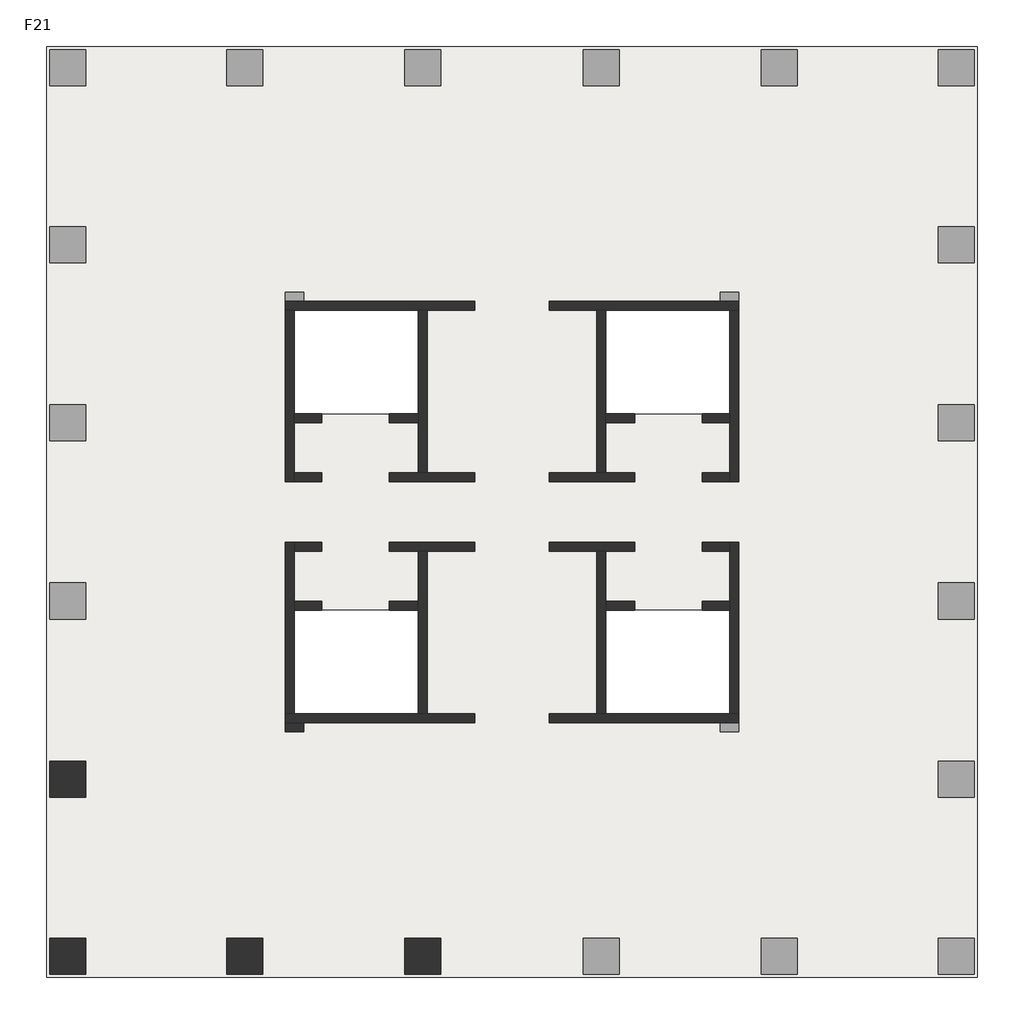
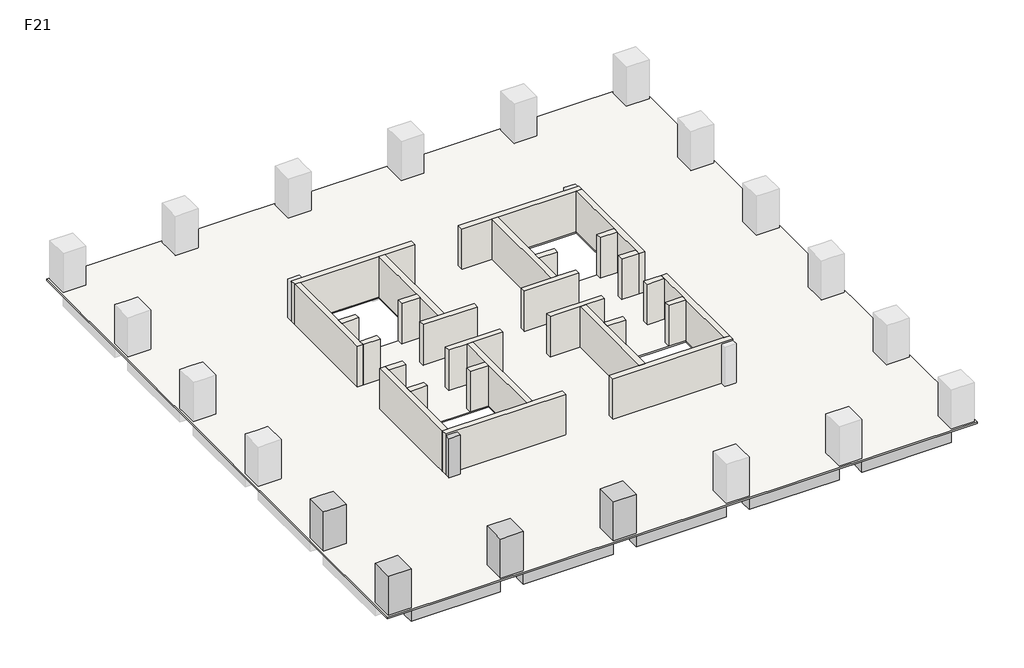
# One storey, part 1 of 2: 28 walls, 5 columns, 3 beams, 1 slab.
"""IFC4 building model written with IfcOpenShell, lengths in millimetres."""

from ifc_helpers import new_model, si_unit, frame, origin, place, context, project, spatial, polyline, outline, extrude, faceted_brep, element, save

model = new_model("IFC4")

# Units and contexts
model_context = context("Model", 3, world=origin())
ifc_project = project(units=[si_unit("LENGTHUNIT", "METRE", prefix="MILLI")], contexts=[model_context])

# Site, building, storey
site = spatial("IfcSite", under=ifc_project)
building = spatial("IfcBuilding", under=site)
storey = spatial("IfcBuildingStorey", under=building, Name="F21", Elevation=81000.0)

# Beams
placement = place(None, origin())
element("IfcBeam", 1, ObjectType="混凝土 - 矩形梁 : KL(5)-800x1000", at=placement, inside=storey, context=model_context, shape_type="SweptSolid", body=[
    extrude(outline(polyline([(-12472.6742169, -13948.9501342), (-12472.6742169, -13148.9501342), (-6222.6742169, -13148.9501342), (-6222.6742169, -13948.9501342), (-12472.6742169, -13948.9501342)])), frame((0.0, 0.0, 80000.0), z_axis=(0.0, 0.0, 1.0), x_axis=(1.0, 0.0, 0.0)), (0.0, 0.0, 1.0), 900.0),
    extrude(outline(polyline([(25327.3257831, -13148.9501342), (25327.3257831, -13948.9501342), (19077.3257831, -13948.9501342), (19077.3257831, -13148.9501342), (25327.3257831, -13148.9501342)])), frame((0.0, 0.0, 80000.0), z_axis=(0.0, 0.0, 1.0), x_axis=(1.0, 0.0, 0.0)), (0.0, 0.0, 1.0), 900.0),
    extrude(outline(polyline([(-4622.6742169, -13948.9501342), (-4622.6742169, -13148.9501342), (1677.3257831, -13148.9501342), (1677.3257831, -13948.9501342), (-4622.6742169, -13948.9501342)])), frame((0.0, 0.0, 80000.0), z_axis=(0.0, 0.0, 1.0), x_axis=(1.0, 0.0, 0.0)), (0.0, 0.0, 1.0), 900.0),
    extrude(outline(polyline([(3277.3257831, -13948.9501342), (3277.3257831, -13148.9501342), (9577.3257831, -13148.9501342), (9577.3257831, -13948.9501342), (3277.3257831, -13948.9501342)])), frame((0.0, 0.0, 80000.0), z_axis=(0.0, 0.0, 1.0), x_axis=(1.0, 0.0, 0.0)), (0.0, 0.0, 1.0), 900.0),
    extrude(outline(polyline([(11177.3257831, -13948.9501342), (11177.3257831, -13148.9501342), (17477.3257831, -13148.9501342), (17477.3257831, -13948.9501342), (11177.3257831, -13948.9501342)])), frame((0.0, 0.0, 80000.0), z_axis=(0.0, 0.0, 1.0), x_axis=(1.0, 0.0, 0.0)), (0.0, 0.0, 1.0), 900.0),
])
element("IfcBeam", 2, ObjectType="混凝土 - 矩形梁 : L1-800x500", at=placement, inside=storey, context=model_context, shape_type="Brep", body=[
    faceted_brep([(-12472.6742169, -5512.1353397, 80500.0), (-3746.9473979, -3341.556529, 80500.0), (-3173.6696907, -3198.9501342, 80500.0), (-3173.6696907, -3198.9501342, 80900.0), (-3746.9473979, -3341.556529, 80900.0), (-12472.6742169, -5512.1353397, 80900.0), (-3622.6742169, -3198.9501342, 80500.0), (-12472.6742169, -4687.7549784, 80500.0), (-3622.6742169, -2486.2624411, 80500.0), (-3622.6742169, -2798.9501342, 80500.0), (-12472.6742169, -4687.7549784, 80900.0), (-3622.6742169, -2486.2624411, 80900.0), (-3622.6742169, -3198.9501342, 80900.0)], [[[0, 1, 2, 3, 4, 5]], [[6, 2, 1, 0, 7, 8, 9]], [[8, 7, 10, 11]], [[2, 6, 12, 3]], [[9, 8, 11, 12, 6]], [[7, 0, 5, 10]], [[5, 4, 3, 12, 11, 10]]]),
])
element("IfcBeam", 3, ObjectType="混凝土 - 矩形梁 : L1-800x500", at=placement, inside=storey, context=model_context, shape_type="SweptSolid", body=[
    extrude(outline(polyline([(-3746.9473979, -3341.556529), (-3173.6696907, -3198.9501342), (-2898.7618154, -3198.9501342), (-4843.6893517, -12348.9501342), (-5661.5624638, -12348.9501342), (-3746.9473979, -3341.556529)])), frame((0.0, 0.0, 80500.0), z_axis=(0.0, 0.0, 1.0), x_axis=(1.0, 0.0, 0.0)), (0.0, 0.0, 1.0), 400.0),
])

# Columns
element("IfcColumn", 4, ObjectType="混凝土 - 矩形 - 柱 : Z1-1600x1600", at=placement, inside=storey, context=model_context, shape_type="Brep", body=[
    faceted_brep([(-12472.6742169, -4498.9501342, 81000.0), (-12472.6742169, -6098.9501342, 81000.0), (-14072.6742169, -6098.9501342, 81000.0), (-14072.6742169, -4498.9501342, 81000.0), (-12472.6742169, -4498.9501342, 83900.0), (-12472.6742169, -6098.9501342, 83900.0), (-13272.6742169, -6098.9501342, 83900.0), (-14072.6742169, -6098.9501342, 83900.0), (-14072.6742169, -6098.9501342, 83000.0), (-14072.6742169, -4498.9501342, 83900.0), (-14072.6742169, -4498.9501342, 83000.0), (-13272.6742169, -4498.9501342, 83900.0)], [[[0, 1, 2, 3]], [[1, 0, 4, 5]], [[2, 1, 5, 6, 7, 8]], [[3, 2, 8, 7, 9, 10]], [[0, 3, 10, 9, 11, 4]], [[5, 4, 11, 9, 7, 6]]]),
])
element("IfcColumn", 5, ObjectType="混凝土 - 矩形 - 柱 : Z1-1600x1600", at=placement, inside=storey, context=model_context, shape_type="SweptSolid", body=[
    extrude(outline(polyline([(-12472.6742169, -12348.9501342), (-12472.6742169, -13948.9501342), (-14072.6742169, -13948.9501342), (-14072.6742169, -12348.9501342), (-12472.6742169, -12348.9501342)])), frame((0.0, 0.0, 81000.0), z_axis=(0.0, 0.0, 1.0), x_axis=(1.0, 0.0, 0.0)), (0.0, 0.0, 1.0), 2900.0),
])
element("IfcColumn", 6, ObjectType="混凝土 - 矩形 - 柱 : Z1-1600x1600", at=placement, inside=storey, context=model_context, shape_type="Brep", body=[
    faceted_brep([(-4622.6742169, -12348.9501342, 81000.0), (-4622.6742169, -13948.9501342, 81000.0), (-6222.6742169, -13948.9501342, 81000.0), (-6222.6742169, -12348.9501342, 81000.0), (-4622.6742169, -12348.9501342, 83900.0), (-4622.6742169, -13148.9501342, 83900.0), (-4622.6742169, -13948.9501342, 83900.0), (-4622.6742169, -13948.9501342, 83000.0), (-6222.6742169, -13948.9501342, 83900.0), (-6222.6742169, -13948.9501342, 83000.0), (-6222.6742169, -13148.9501342, 83900.0), (-6222.6742169, -12348.9501342, 83900.0)], [[[0, 1, 2, 3]], [[1, 0, 4, 5, 6, 7]], [[2, 1, 7, 6, 8, 9]], [[3, 2, 9, 8, 10, 11]], [[0, 3, 11, 4]], [[6, 5, 4, 11, 10, 8]]]),
])
element("IfcColumn", 7, ObjectType="混凝土 - 矩形 - 柱 : Z1-1600x1600", at=placement, inside=storey, context=model_context, shape_type="Brep", body=[
    faceted_brep([(3277.3257831, -12348.9501342, 81000.0), (3277.3257831, -13948.9501342, 81000.0), (1677.3257831, -13948.9501342, 81000.0), (1677.3257831, -12348.9501342, 81000.0), (3277.3257831, -12348.9501342, 83900.0), (3277.3257831, -13148.9501342, 83900.0), (3277.3257831, -13948.9501342, 83900.0), (3277.3257831, -13948.9501342, 83000.0), (1677.3257831, -13948.9501342, 83900.0), (1677.3257831, -13948.9501342, 83000.0), (1677.3257831, -13148.9501342, 83900.0), (1677.3257831, -12348.9501342, 83900.0)], [[[0, 1, 2, 3]], [[1, 0, 4, 5, 6, 7]], [[2, 1, 7, 6, 8, 9]], [[3, 2, 9, 8, 10, 11]], [[0, 3, 11, 4]], [[6, 5, 4, 11, 10, 8]]]),
])
element("IfcColumn", 8, ObjectType="混凝土 - 矩形 - 柱 : Z2-800x800", at=placement, inside=storey, context=model_context, shape_type="SweptSolid", body=[
    extrude(outline(polyline([(-2822.6742169, -3198.9501342), (-3622.6742169, -3198.9501342), (-3622.6742169, -2798.9501342), (-2822.6742169, -2798.9501342), (-2822.6742169, -3198.9501342)])), frame((0.0, 0.0, 81000.0), z_axis=(0.0, 0.0, 1.0), x_axis=(1.0, 0.0, 0.0)), (0.0, 0.0, 1.0), 2900.0),
])

# Slab
element("IfcSlab", 9, ObjectType="LB-100", at=placement, inside=storey, context=model_context, shape_type="SweptSolid", body=[
    extrude(outline(polyline([(27077.3257831, 27201.0498658), (27077.3257831, -14085.2672073), (-14222.6742169, -14085.2672073), (-14222.6742169, 27201.0498658), (27077.3257831, 27201.0498658)]), holes=[polyline([(2277.3257831, 15501.0498658), (-3222.6742169, 15501.0498658), (-3222.6742169, 10901.0498658), (2277.3257831, 10901.0498658), (2277.3257831, 15501.0498658)]), polyline([(2277.3257831, 2201.0498658), (-3222.6742169, 2201.0498658), (-3222.6742169, -2398.9501342), (2277.3257831, -2398.9501342), (2277.3257831, 2201.0498658)]), polyline([(16077.3257831, 2201.0498658), (10577.3257831, 2201.0498658), (10577.3257831, -2398.9501342), (16077.3257831, -2398.9501342), (16077.3257831, 2201.0498658)]), polyline([(16077.3257831, 15501.0498658), (10577.3257831, 15501.0498658), (10577.3257831, 10901.0498658), (16077.3257831, 10901.0498658), (16077.3257831, 15501.0498658)])]), frame((0.0, 0.0, 80900.0), z_axis=(0.0, 0.0, 1.0), x_axis=(1.0, 0.0, 0.0)), (0.0, 0.0, 1.0), 100.0),
])

# Walls
element("IfcWall", 10, ObjectType="剪力墙-400", at=placement, inside=storey, context=model_context, shape_type="Brep", body=[
    faceted_brep([(-3622.6742169, 15501.0498658, 81000.0), (-3222.6742169, 15501.0498658, 81000.0), (2277.3257831, 15501.0498658, 81000.0), (2677.3257831, 15501.0498658, 81000.0), (4777.3257831, 15501.0498658, 81000.0), (4777.3257831, 15501.0498658, 84000.0), (2677.3257831, 15501.0498658, 84000.0), (2277.3257831, 15501.0498658, 84000.0), (-3222.6742169, 15501.0498658, 84000.0), (-3622.6742169, 15501.0498658, 84000.0), (-3622.6742169, 15901.0498658, 81000.0), (-3622.6742169, 15901.0498658, 83900.0), (-3622.6742169, 15901.0498658, 84000.0), (4777.3257831, 15901.0498658, 84000.0), (4777.3257831, 15901.0498658, 81000.0), (-2822.6742169, 15901.0498658, 81000.0)], [[[0, 1, 2, 3, 4, 5, 6, 7, 8, 9]], [[10, 11, 12, 13, 14, 15]], [[4, 3, 2, 1, 0, 10, 15, 14]], [[5, 4, 14, 13]], [[9, 8, 7, 6, 5, 13, 12]], [[0, 9, 12, 11, 10]]]),
])
element("IfcWall", 11, ObjectType="剪力墙-400", at=placement, inside=storey, context=model_context, shape_type="Brep", body=[
    faceted_brep([(2277.3257831, 15501.0498658, 81000.0), (2277.3257831, 10901.0498658, 81000.0), (2277.3257831, 10501.0498658, 81000.0), (2277.3257831, 8301.0498658, 81000.0), (2277.3257831, 8301.0498658, 84000.0), (2277.3257831, 10501.0498658, 84000.0), (2277.3257831, 10901.0498658, 84000.0), (2277.3257831, 15501.0498658, 84000.0), (2677.3257831, 15501.0498658, 81000.0), (2677.3257831, 15501.0498658, 84000.0), (2677.3257831, 8301.0498658, 84000.0), (2677.3257831, 8301.0498658, 81000.0)], [[[0, 1, 2, 3, 4, 5, 6, 7]], [[8, 9, 10, 11]], [[3, 2, 1, 0, 8, 11]], [[7, 6, 5, 4, 10, 9]], [[0, 7, 9, 8]], [[4, 3, 11, 10]]]),
])
element("IfcWall", 12, ObjectType="剪力墙-400", at=placement, inside=storey, context=model_context, shape_type="Brep", body=[
    faceted_brep([(-3622.6742169, 15501.0498658, 81000.0), (-3622.6742169, 7901.0498658, 81000.0), (-3622.6742169, 7901.0498658, 84000.0), (-3622.6742169, 15501.0498658, 84000.0), (-3222.6742169, 15501.0498658, 81000.0), (-3222.6742169, 15501.0498658, 84000.0), (-3222.6742169, 10901.0498658, 84000.0), (-3222.6742169, 10501.0498658, 84000.0), (-3222.6742169, 8301.0498658, 84000.0), (-3222.6742169, 7901.0498658, 84000.0), (-3222.6742169, 7901.0498658, 81000.0), (-3222.6742169, 8301.0498658, 81000.0), (-3222.6742169, 10501.0498658, 81000.0), (-3222.6742169, 10901.0498658, 81000.0)], [[[0, 1, 2, 3]], [[4, 5, 6, 7, 8, 9, 10, 11, 12, 13]], [[1, 0, 4, 13, 12, 11, 10]], [[3, 2, 9, 8, 7, 6, 5]], [[0, 3, 5, 4]], [[2, 1, 10, 9]]]),
])
element("IfcWall", 13, ObjectType="剪力墙-400", at=placement, inside=storey, context=model_context, shape_type="SweptSolid", body=[
    extrude(outline(polyline([(-2022.6742169, 7901.0498658), (-3222.6742169, 7901.0498658), (-3222.6742169, 8301.0498658), (-2022.6742169, 8301.0498658), (-2022.6742169, 7901.0498658)])), frame((0.0, 0.0, 81000.0), z_axis=(0.0, 0.0, 1.0), x_axis=(1.0, 0.0, 0.0)), (0.0, 0.0, 1.0), 3000.0),
])
element("IfcWall", 14, ObjectType="剪力墙-400", at=placement, inside=storey, context=model_context, shape_type="Brep", body=[
    faceted_brep([(977.3257831, 7901.0498658, 81000.0), (4777.3257831, 7901.0498658, 81000.0), (4777.3257831, 7901.0498658, 84000.0), (977.3257831, 7901.0498658, 84000.0), (977.3257831, 8301.0498658, 81000.0), (977.3257831, 8301.0498658, 84000.0), (2277.3257831, 8301.0498658, 84000.0), (2677.3257831, 8301.0498658, 84000.0), (4777.3257831, 8301.0498658, 84000.0), (4777.3257831, 8301.0498658, 81000.0), (2677.3257831, 8301.0498658, 81000.0), (2277.3257831, 8301.0498658, 81000.0)], [[[0, 1, 2, 3]], [[4, 5, 6, 7, 8, 9, 10, 11]], [[1, 0, 4, 11, 10, 9]], [[2, 1, 9, 8]], [[3, 2, 8, 7, 6, 5]], [[0, 3, 5, 4]]]),
])
element("IfcWall", 15, ObjectType="剪力墙-400", at=placement, inside=storey, context=model_context, shape_type="SweptSolid", body=[
    extrude(outline(polyline([(-2022.6742169, 10501.0498658), (-3222.6742169, 10501.0498658), (-3222.6742169, 10901.0498658), (-2022.6742169, 10901.0498658), (-2022.6742169, 10501.0498658)])), frame((0.0, 0.0, 81000.0), z_axis=(0.0, 0.0, 1.0), x_axis=(1.0, 0.0, 0.0)), (0.0, 0.0, 1.0), 3000.0),
])
element("IfcWall", 16, ObjectType="剪力墙-400", at=placement, inside=storey, context=model_context, shape_type="SweptSolid", body=[
    extrude(outline(polyline([(2277.3257831, 10501.0498658), (977.3257831, 10501.0498658), (977.3257831, 10901.0498658), (2277.3257831, 10901.0498658), (2277.3257831, 10501.0498658)])), frame((0.0, 0.0, 81000.0), z_axis=(0.0, 0.0, 1.0), x_axis=(1.0, 0.0, 0.0)), (0.0, 0.0, 1.0), 3000.0),
])
element("IfcWall", 17, ObjectType="剪力墙-400", at=placement, inside=storey, context=model_context, shape_type="Brep", body=[
    faceted_brep([(16477.3257831, 15901.0498658, 81000.0), (15677.3257831, 15901.0498658, 81000.0), (8077.3257831, 15901.0498658, 81000.0), (8077.3257831, 15901.0498658, 84000.0), (16477.3257831, 15901.0498658, 84000.0), (16477.3257831, 15901.0498658, 83900.0), (16477.3257831, 15501.0498658, 81000.0), (16477.3257831, 15501.0498658, 84000.0), (16077.3257831, 15501.0498658, 84000.0), (10577.3257831, 15501.0498658, 84000.0), (10177.3257831, 15501.0498658, 84000.0), (8077.3257831, 15501.0498658, 84000.0), (8077.3257831, 15501.0498658, 81000.0), (10177.3257831, 15501.0498658, 81000.0), (10577.3257831, 15501.0498658, 81000.0), (16077.3257831, 15501.0498658, 81000.0)], [[[0, 1, 2, 3, 4, 5]], [[6, 7, 8, 9, 10, 11, 12, 13, 14, 15]], [[2, 1, 0, 6, 15, 14, 13, 12]], [[3, 2, 12, 11]], [[4, 3, 11, 10, 9, 8, 7]], [[0, 5, 4, 7, 6]]]),
])
element("IfcWall", 18, ObjectType="剪力墙-400", at=placement, inside=storey, context=model_context, shape_type="Brep", body=[
    faceted_brep([(10177.3257831, 15501.0498658, 81000.0), (10177.3257831, 8301.0498658, 81000.0), (10177.3257831, 8301.0498658, 84000.0), (10177.3257831, 15501.0498658, 84000.0), (10577.3257831, 15501.0498658, 81000.0), (10577.3257831, 15501.0498658, 84000.0), (10577.3257831, 10901.0498658, 84000.0), (10577.3257831, 10501.0498658, 84000.0), (10577.3257831, 8301.0498658, 84000.0), (10577.3257831, 8301.0498658, 81000.0), (10577.3257831, 10501.0498658, 81000.0), (10577.3257831, 10901.0498658, 81000.0)], [[[0, 1, 2, 3]], [[4, 5, 6, 7, 8, 9, 10, 11]], [[1, 0, 4, 11, 10, 9]], [[3, 2, 8, 7, 6, 5]], [[0, 3, 5, 4]], [[2, 1, 9, 8]]]),
])
element("IfcWall", 19, ObjectType="剪力墙-400", at=placement, inside=storey, context=model_context, shape_type="Brep", body=[
    faceted_brep([(16077.3257831, 15501.0498658, 81000.0), (16077.3257831, 10901.0498658, 81000.0), (16077.3257831, 10501.0498658, 81000.0), (16077.3257831, 8301.0498658, 81000.0), (16077.3257831, 7901.0498658, 81000.0), (16077.3257831, 7901.0498658, 84000.0), (16077.3257831, 8301.0498658, 84000.0), (16077.3257831, 10501.0498658, 84000.0), (16077.3257831, 10901.0498658, 84000.0), (16077.3257831, 15501.0498658, 84000.0), (16477.3257831, 15501.0498658, 81000.0), (16477.3257831, 15501.0498658, 84000.0), (16477.3257831, 7901.0498658, 84000.0), (16477.3257831, 7901.0498658, 81000.0)], [[[0, 1, 2, 3, 4, 5, 6, 7, 8, 9]], [[10, 11, 12, 13]], [[4, 3, 2, 1, 0, 10, 13]], [[9, 8, 7, 6, 5, 12, 11]], [[0, 9, 11, 10]], [[5, 4, 13, 12]]]),
])
element("IfcWall", 20, ObjectType="剪力墙-400", at=placement, inside=storey, context=model_context, shape_type="SweptSolid", body=[
    extrude(outline(polyline([(14877.3257831, 8301.0498658), (16077.3257831, 8301.0498658), (16077.3257831, 7901.0498658), (14877.3257831, 7901.0498658), (14877.3257831, 8301.0498658)])), frame((0.0, 0.0, 81000.0), z_axis=(0.0, 0.0, 1.0), x_axis=(1.0, 0.0, 0.0)), (0.0, 0.0, 1.0), 3000.0),
])
element("IfcWall", 21, ObjectType="剪力墙-400", at=placement, inside=storey, context=model_context, shape_type="Brep", body=[
    faceted_brep([(11877.3257831, 8301.0498658, 81000.0), (10577.3257831, 8301.0498658, 81000.0), (10177.3257831, 8301.0498658, 81000.0), (8077.3257831, 8301.0498658, 81000.0), (8077.3257831, 8301.0498658, 84000.0), (10177.3257831, 8301.0498658, 84000.0), (10577.3257831, 8301.0498658, 84000.0), (11877.3257831, 8301.0498658, 84000.0), (11877.3257831, 7901.0498658, 81000.0), (11877.3257831, 7901.0498658, 84000.0), (8077.3257831, 7901.0498658, 84000.0), (8077.3257831, 7901.0498658, 81000.0)], [[[0, 1, 2, 3, 4, 5, 6, 7]], [[8, 9, 10, 11]], [[3, 2, 1, 0, 8, 11]], [[4, 3, 11, 10]], [[7, 6, 5, 4, 10, 9]], [[0, 7, 9, 8]]]),
])
element("IfcWall", 22, ObjectType="剪力墙-400", at=placement, inside=storey, context=model_context, shape_type="SweptSolid", body=[
    extrude(outline(polyline([(14877.3257831, 10901.0498658), (16077.3257831, 10901.0498658), (16077.3257831, 10501.0498658), (14877.3257831, 10501.0498658), (14877.3257831, 10901.0498658)])), frame((0.0, 0.0, 81000.0), z_axis=(0.0, 0.0, 1.0), x_axis=(1.0, 0.0, 0.0)), (0.0, 0.0, 1.0), 3000.0),
])
element("IfcWall", 23, ObjectType="剪力墙-400", at=placement, inside=storey, context=model_context, shape_type="SweptSolid", body=[
    extrude(outline(polyline([(10577.3257831, 10901.0498658), (11877.3257831, 10901.0498658), (11877.3257831, 10501.0498658), (10577.3257831, 10501.0498658), (10577.3257831, 10901.0498658)])), frame((0.0, 0.0, 81000.0), z_axis=(0.0, 0.0, 1.0), x_axis=(1.0, 0.0, 0.0)), (0.0, 0.0, 1.0), 3000.0),
])
element("IfcWall", 24, ObjectType="剪力墙-400", at=placement, inside=storey, context=model_context, shape_type="Brep", body=[
    faceted_brep([(-3622.6742169, -2798.9501342, 81000.0), (-2822.6742169, -2798.9501342, 81000.0), (4777.3257831, -2798.9501342, 81000.0), (4777.3257831, -2798.9501342, 84000.0), (-3622.6742169, -2798.9501342, 84000.0), (-3622.6742169, -2798.9501342, 83900.0), (-3622.6742169, -2398.9501342, 81000.0), (-3622.6742169, -2398.9501342, 84000.0), (-3222.6742169, -2398.9501342, 84000.0), (2277.3257831, -2398.9501342, 84000.0), (2677.3257831, -2398.9501342, 84000.0), (4777.3257831, -2398.9501342, 84000.0), (4777.3257831, -2398.9501342, 81000.0), (2677.3257831, -2398.9501342, 81000.0), (2277.3257831, -2398.9501342, 81000.0), (-3222.6742169, -2398.9501342, 81000.0)], [[[0, 1, 2, 3, 4, 5]], [[6, 7, 8, 9, 10, 11, 12, 13, 14, 15]], [[2, 1, 0, 6, 15, 14, 13, 12]], [[3, 2, 12, 11]], [[4, 3, 11, 10, 9, 8, 7]], [[0, 5, 4, 7, 6]]]),
])
element("IfcWall", 25, ObjectType="剪力墙-400", at=placement, inside=storey, context=model_context, shape_type="Brep", body=[
    faceted_brep([(2677.3257831, -2398.9501342, 81000.0), (2677.3257831, 4801.0498658, 81000.0), (2677.3257831, 4801.0498658, 84000.0), (2677.3257831, -2398.9501342, 84000.0), (2277.3257831, -2398.9501342, 81000.0), (2277.3257831, -2398.9501342, 84000.0), (2277.3257831, 2201.0498658, 84000.0), (2277.3257831, 2601.0498658, 84000.0), (2277.3257831, 4801.0498658, 84000.0), (2277.3257831, 4801.0498658, 81000.0), (2277.3257831, 2601.0498658, 81000.0), (2277.3257831, 2201.0498658, 81000.0)], [[[0, 1, 2, 3]], [[4, 5, 6, 7, 8, 9, 10, 11]], [[1, 0, 4, 11, 10, 9]], [[3, 2, 8, 7, 6, 5]], [[0, 3, 5, 4]], [[2, 1, 9, 8]]]),
])
element("IfcWall", 26, ObjectType="剪力墙-400", at=placement, inside=storey, context=model_context, shape_type="Brep", body=[
    faceted_brep([(-3222.6742169, -2398.9501342, 81000.0), (-3222.6742169, 2201.0498658, 81000.0), (-3222.6742169, 2601.0498658, 81000.0), (-3222.6742169, 4801.0498658, 81000.0), (-3222.6742169, 5201.0498658, 81000.0), (-3222.6742169, 5201.0498658, 84000.0), (-3222.6742169, 4801.0498658, 84000.0), (-3222.6742169, 2601.0498658, 84000.0), (-3222.6742169, 2201.0498658, 84000.0), (-3222.6742169, -2398.9501342, 84000.0), (-3622.6742169, -2398.9501342, 81000.0), (-3622.6742169, -2398.9501342, 84000.0), (-3622.6742169, 5201.0498658, 84000.0), (-3622.6742169, 5201.0498658, 81000.0)], [[[0, 1, 2, 3, 4, 5, 6, 7, 8, 9]], [[10, 11, 12, 13]], [[4, 3, 2, 1, 0, 10, 13]], [[9, 8, 7, 6, 5, 12, 11]], [[0, 9, 11, 10]], [[5, 4, 13, 12]]]),
])
element("IfcWall", 27, ObjectType="剪力墙-400", at=placement, inside=storey, context=model_context, shape_type="SweptSolid", body=[
    extrude(outline(polyline([(-2022.6742169, 4801.0498658), (-3222.6742169, 4801.0498658), (-3222.6742169, 5201.0498658), (-2022.6742169, 5201.0498658), (-2022.6742169, 4801.0498658)])), frame((0.0, 0.0, 81000.0), z_axis=(0.0, 0.0, 1.0), x_axis=(1.0, 0.0, 0.0)), (0.0, 0.0, 1.0), 3000.0),
])
element("IfcWall", 28, ObjectType="剪力墙-400", at=placement, inside=storey, context=model_context, shape_type="Brep", body=[
    faceted_brep([(977.3257831, 4801.0498658, 81000.0), (2277.3257831, 4801.0498658, 81000.0), (2677.3257831, 4801.0498658, 81000.0), (4777.3257831, 4801.0498658, 81000.0), (4777.3257831, 4801.0498658, 84000.0), (2677.3257831, 4801.0498658, 84000.0), (2277.3257831, 4801.0498658, 84000.0), (977.3257831, 4801.0498658, 84000.0), (977.3257831, 5201.0498658, 81000.0), (977.3257831, 5201.0498658, 84000.0), (4777.3257831, 5201.0498658, 84000.0), (4777.3257831, 5201.0498658, 81000.0)], [[[0, 1, 2, 3, 4, 5, 6, 7]], [[8, 9, 10, 11]], [[3, 2, 1, 0, 8, 11]], [[4, 3, 11, 10]], [[7, 6, 5, 4, 10, 9]], [[0, 7, 9, 8]]]),
])
element("IfcWall", 29, ObjectType="剪力墙-400", at=placement, inside=storey, context=model_context, shape_type="SweptSolid", body=[
    extrude(outline(polyline([(-2022.6742169, 2201.0498658), (-3222.6742169, 2201.0498658), (-3222.6742169, 2601.0498658), (-2022.6742169, 2601.0498658), (-2022.6742169, 2201.0498658)])), frame((0.0, 0.0, 81000.0), z_axis=(0.0, 0.0, 1.0), x_axis=(1.0, 0.0, 0.0)), (0.0, 0.0, 1.0), 3000.0),
])
element("IfcWall", 30, ObjectType="剪力墙-400", at=placement, inside=storey, context=model_context, shape_type="SweptSolid", body=[
    extrude(outline(polyline([(2277.3257831, 2201.0498658), (977.3257831, 2201.0498658), (977.3257831, 2601.0498658), (2277.3257831, 2601.0498658), (2277.3257831, 2201.0498658)])), frame((0.0, 0.0, 81000.0), z_axis=(0.0, 0.0, 1.0), x_axis=(1.0, 0.0, 0.0)), (0.0, 0.0, 1.0), 3000.0),
])
element("IfcWall", 31, ObjectType="剪力墙-400", at=placement, inside=storey, context=model_context, shape_type="Brep", body=[
    faceted_brep([(16477.3257831, -2398.9501342, 81000.0), (16077.3257831, -2398.9501342, 81000.0), (10577.3257831, -2398.9501342, 81000.0), (10177.3257831, -2398.9501342, 81000.0), (8077.3257831, -2398.9501342, 81000.0), (8077.3257831, -2398.9501342, 84000.0), (10177.3257831, -2398.9501342, 84000.0), (10577.3257831, -2398.9501342, 84000.0), (16077.3257831, -2398.9501342, 84000.0), (16477.3257831, -2398.9501342, 84000.0), (16477.3257831, -2798.9501342, 81000.0), (16477.3257831, -2798.9501342, 83900.0), (16477.3257831, -2798.9501342, 84000.0), (8077.3257831, -2798.9501342, 84000.0), (8077.3257831, -2798.9501342, 81000.0), (15677.3257831, -2798.9501342, 81000.0)], [[[0, 1, 2, 3, 4, 5, 6, 7, 8, 9]], [[10, 11, 12, 13, 14, 15]], [[4, 3, 2, 1, 0, 10, 15, 14]], [[5, 4, 14, 13]], [[9, 8, 7, 6, 5, 13, 12]], [[0, 9, 12, 11, 10]]]),
])
element("IfcWall", 32, ObjectType="剪力墙-400", at=placement, inside=storey, context=model_context, shape_type="Brep", body=[
    faceted_brep([(10577.3257831, -2398.9501342, 81000.0), (10577.3257831, 2201.0498658, 81000.0), (10577.3257831, 2601.0498658, 81000.0), (10577.3257831, 4801.0498658, 81000.0), (10577.3257831, 4801.0498658, 84000.0), (10577.3257831, 2601.0498658, 84000.0), (10577.3257831, 2201.0498658, 84000.0), (10577.3257831, -2398.9501342, 84000.0), (10177.3257831, -2398.9501342, 81000.0), (10177.3257831, -2398.9501342, 84000.0), (10177.3257831, 4801.0498658, 84000.0), (10177.3257831, 4801.0498658, 81000.0)], [[[0, 1, 2, 3, 4, 5, 6, 7]], [[8, 9, 10, 11]], [[3, 2, 1, 0, 8, 11]], [[7, 6, 5, 4, 10, 9]], [[0, 7, 9, 8]], [[4, 3, 11, 10]]]),
])
element("IfcWall", 33, ObjectType="剪力墙-400", at=placement, inside=storey, context=model_context, shape_type="Brep", body=[
    faceted_brep([(16477.3257831, -2398.9501342, 81000.0), (16477.3257831, 5201.0498658, 81000.0), (16477.3257831, 5201.0498658, 84000.0), (16477.3257831, -2398.9501342, 84000.0), (16077.3257831, -2398.9501342, 81000.0), (16077.3257831, -2398.9501342, 84000.0), (16077.3257831, 2201.0498658, 84000.0), (16077.3257831, 2601.0498658, 84000.0), (16077.3257831, 4801.0498658, 84000.0), (16077.3257831, 5201.0498658, 84000.0), (16077.3257831, 5201.0498658, 81000.0), (16077.3257831, 4801.0498658, 81000.0), (16077.3257831, 2601.0498658, 81000.0), (16077.3257831, 2201.0498658, 81000.0)], [[[0, 1, 2, 3]], [[4, 5, 6, 7, 8, 9, 10, 11, 12, 13]], [[1, 0, 4, 13, 12, 11, 10]], [[3, 2, 9, 8, 7, 6, 5]], [[0, 3, 5, 4]], [[2, 1, 10, 9]]]),
])
element("IfcWall", 34, ObjectType="剪力墙-400", at=placement, inside=storey, context=model_context, shape_type="SweptSolid", body=[
    extrude(outline(polyline([(14877.3257831, 5201.0498658), (16077.3257831, 5201.0498658), (16077.3257831, 4801.0498658), (14877.3257831, 4801.0498658), (14877.3257831, 5201.0498658)])), frame((0.0, 0.0, 81000.0), z_axis=(0.0, 0.0, 1.0), x_axis=(1.0, 0.0, 0.0)), (0.0, 0.0, 1.0), 3000.0),
])
element("IfcWall", 35, ObjectType="剪力墙-400", at=placement, inside=storey, context=model_context, shape_type="Brep", body=[
    faceted_brep([(11877.3257831, 5201.0498658, 81000.0), (8077.3257831, 5201.0498658, 81000.0), (8077.3257831, 5201.0498658, 84000.0), (11877.3257831, 5201.0498658, 84000.0), (11877.3257831, 4801.0498658, 81000.0), (11877.3257831, 4801.0498658, 84000.0), (10577.3257831, 4801.0498658, 84000.0), (10177.3257831, 4801.0498658, 84000.0), (8077.3257831, 4801.0498658, 84000.0), (8077.3257831, 4801.0498658, 81000.0), (10177.3257831, 4801.0498658, 81000.0), (10577.3257831, 4801.0498658, 81000.0)], [[[0, 1, 2, 3]], [[4, 5, 6, 7, 8, 9, 10, 11]], [[1, 0, 4, 11, 10, 9]], [[2, 1, 9, 8]], [[3, 2, 8, 7, 6, 5]], [[0, 3, 5, 4]]]),
])
element("IfcWall", 36, ObjectType="剪力墙-400", at=placement, inside=storey, context=model_context, shape_type="SweptSolid", body=[
    extrude(outline(polyline([(14877.3257831, 2601.0498658), (16077.3257831, 2601.0498658), (16077.3257831, 2201.0498658), (14877.3257831, 2201.0498658), (14877.3257831, 2601.0498658)])), frame((0.0, 0.0, 81000.0), z_axis=(0.0, 0.0, 1.0), x_axis=(1.0, 0.0, 0.0)), (0.0, 0.0, 1.0), 3000.0),
])
element("IfcWall", 37, ObjectType="剪力墙-400", at=placement, inside=storey, context=model_context, shape_type="SweptSolid", body=[
    extrude(outline(polyline([(10577.3257831, 2601.0498658), (11877.3257831, 2601.0498658), (11877.3257831, 2201.0498658), (10577.3257831, 2201.0498658), (10577.3257831, 2601.0498658)])), frame((0.0, 0.0, 81000.0), z_axis=(0.0, 0.0, 1.0), x_axis=(1.0, 0.0, 0.0)), (0.0, 0.0, 1.0), 3000.0),
])

save(model, "model.ifc")
